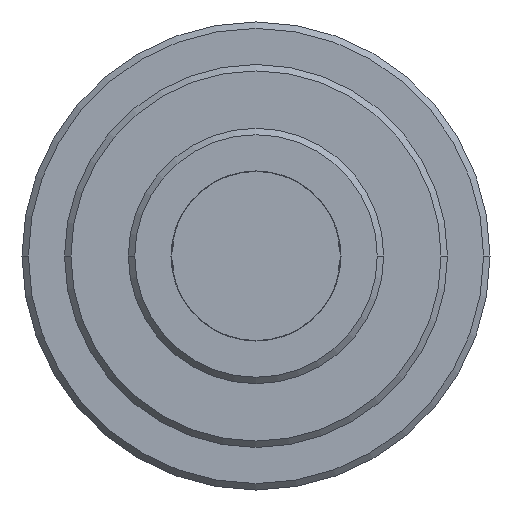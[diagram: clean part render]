
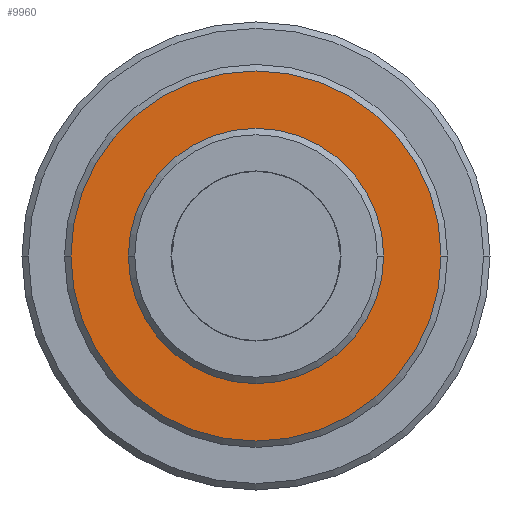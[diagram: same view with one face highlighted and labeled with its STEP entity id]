
A CAD part, left-side view. The second image highlights one B-rep face of the part: STEP entity #9960.
In plain terms, the highlighted planar face has unit normal (-1, 0, 0).
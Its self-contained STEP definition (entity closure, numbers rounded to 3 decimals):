
#8470=CARTESIAN_POINT('',(53.6,-5.9,0.))
;
#8480=VERTEX_POINT('',#8470);
#8560=CARTESIAN_POINT('',(53.6,5.9,0.));
#8570=VERTEX_POINT('',#8560);
#8600=CARTESIAN_POINT('',(53.6,0.,0.));
#8610=DIRECTION('',(1.,0.,0.));
#8620=DIRECTION('',(0.,-1.,0.));
#8630=AXIS2_PLACEMENT_3D('',#8600,#8610,#8620);
#8640=CIRCLE('',#8630,5.9);
#8650=EDGE_CURVE('',#8570,#8480,#8640,.T.);
#9570=CARTESIAN_POINT('',(53.6,-8.7,0.));
#9580=VERTEX_POINT('',#9570);
#9610=CARTESIAN_POINT('',(53.6,0.,0.));
#9620=DIRECTION('',(-1.,0.,-0.));
#9630=DIRECTION('',(0.,1.,0.));
#9640=AXIS2_PLACEMENT_3D('',#9610,#9620,#9630);
#9650=CIRCLE('',#9640,8.7);
#9660=CARTESIAN_POINT('',(53.6,8.7,0.));
#9670=VERTEX_POINT('',#9660);
#9680=EDGE_CURVE('',#9580,#9670,#9650,.T.);
#9810=CARTESIAN_POINT('',(53.6,7.3,0.));
#9820=DIRECTION('',(1.,0.,0.));
#9830=DIRECTION('',(0.,-1.,0.));
#9840=AXIS2_PLACEMENT_3D('',#9810,#9820,#9830);
#9850=PLANE('',#9840);
#9860=ORIENTED_EDGE('',*,*,#9680,.T.);
#9870=EDGE_CURVE('',#9670,#9580,#9650,.T.);
#9880=ORIENTED_EDGE('',*,*,#9870,.T.);
#9890=EDGE_LOOP('',(#9880,#9860));
#9900=FACE_OUTER_BOUND('',#9890,.T.);
#9910=EDGE_CURVE('',#8480,#8570,#8640,.T.);
#9920=ORIENTED_EDGE('',*,*,#9910,.T.);
#9930=ORIENTED_EDGE('',*,*,#8650,.T.);
#9940=EDGE_LOOP('',(#9930,#9920));
#9950=FACE_BOUND('',#9940,.T.);
#9960=ADVANCED_FACE('',(#9900,#9950),#9850,.F.);
